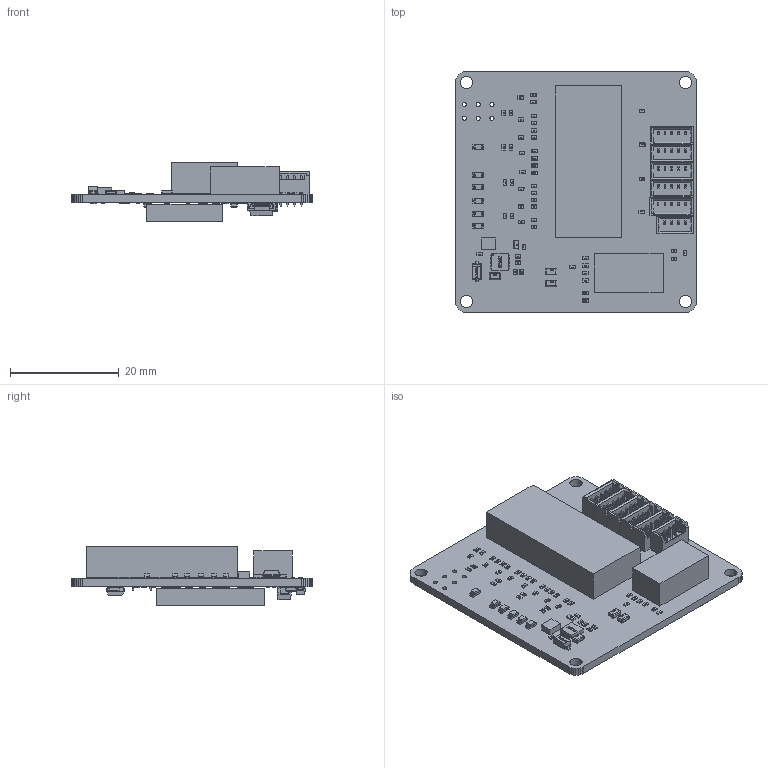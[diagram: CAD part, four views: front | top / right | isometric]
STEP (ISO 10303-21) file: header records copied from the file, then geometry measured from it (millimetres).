
FILE_DESCRIPTION (( 'STEP AP214' ), '1' );
FILE_NAME ('Ethos Lite Part USE ME.STEP', '2016-12-13T00:58:27', ( 'larrym' ), ( 'Hewlett-Packard Company' ), 'SwSTEP 2.0', 'SolidWorks 2015', '' );
FILE_SCHEMA (( 'AUTOMOTIVE_DESIGN' ));
Length unit declared in the file: inch
Products named in the file (1): Ethos Lite Part USE ME
Bounding box: 44.48 x 44.48 x 10.77 mm (x, y, z)
Volume: 6716.4 mm3; surface area: 8192.9 mm2
Topology: 149 solids, 149 shells, 8558 faces, 21073 edges, 12594 vertices
Faces by surface type: plane 4427, bspline 2812, cylinder 1319
Entity records: 476691 total; most frequent: CARTESIAN_POINT 182735, ORIENTED_EDGE 40626, DIRECTION 30270, EDGE_CURVE 20313, VECTOR 13628, LINE 13628, VERTEX_POINT 12594, EDGE_LOOP 9159
